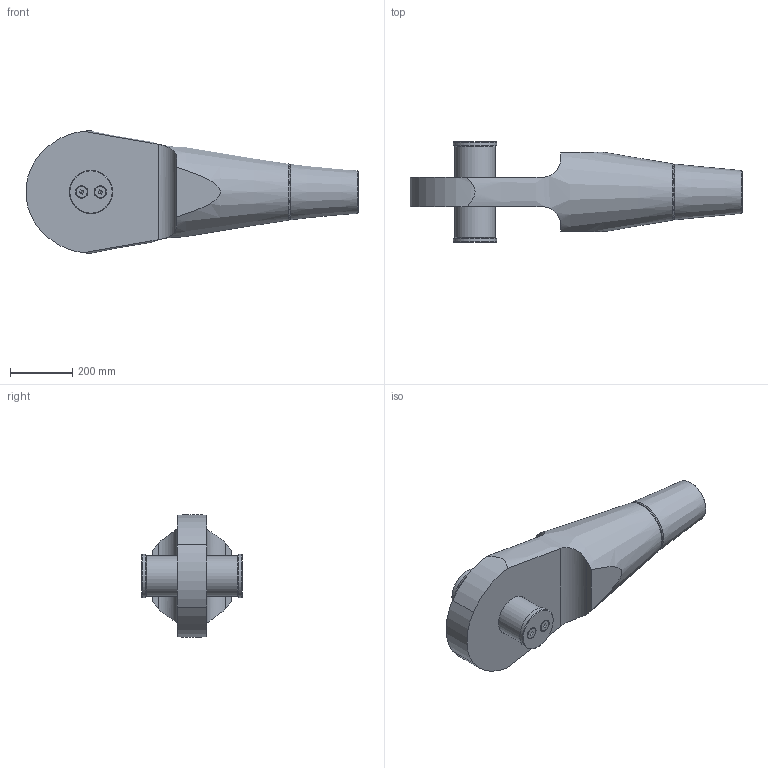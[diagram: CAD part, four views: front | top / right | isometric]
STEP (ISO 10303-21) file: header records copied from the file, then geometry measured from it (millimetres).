
FILE_DESCRIPTION(/* description */ (''),/* implementation_level */ '2;1');
FILE_NAME(/* name */ 'G:\Engineering\700 CAD\Internet-PX-1-step-igs-dxf\520-OES-Arbeitsdateien\520-120-OES.stp',/* time_stamp */ '2020-06-26T10:42:03+02:00',/* author */ ('schwarz'),/* organization */ (''),/* preprocessor_version */ 'ST-DEVELOPER v16.1',/* originating_system */ 'Autodesk Inventor 2016',/* authorisation */ '');
FILE_SCHEMA (('AUTOMOTIVE_DESIGN { 1 0 10303 214 3 1 1 }'));
Length unit declared in the file: centimetre
Products named in the file (1): 520-120-OES-KMU-Kunde
Bounding box: 1069.37 x 327 x 394.2 mm (x, y, z)
Volume: 37684607.1 mm3; surface area: 1115103 mm2
Topology: 2 solids, 10 shells, 104 faces, 243 edges, 159 vertices
Faces by surface type: plane 49, cone 28, cylinder 26, torus 1
Full cylindrical faces by diameter (mm): 17.294 x4, 20 x4, 22 x4, 36.05 x4, 124 x1, 129 x1, 132 x1, 140 x2
Entity records: 2703 total; most frequent: CARTESIAN_POINT 595, DIRECTION 406, ORIENTED_EDGE 328, AXIS2_PLACEMENT_3D 175, EDGE_LOOP 164, EDGE_CURVE 164, VERTEX_POINT 130, STYLED_ITEM 106
